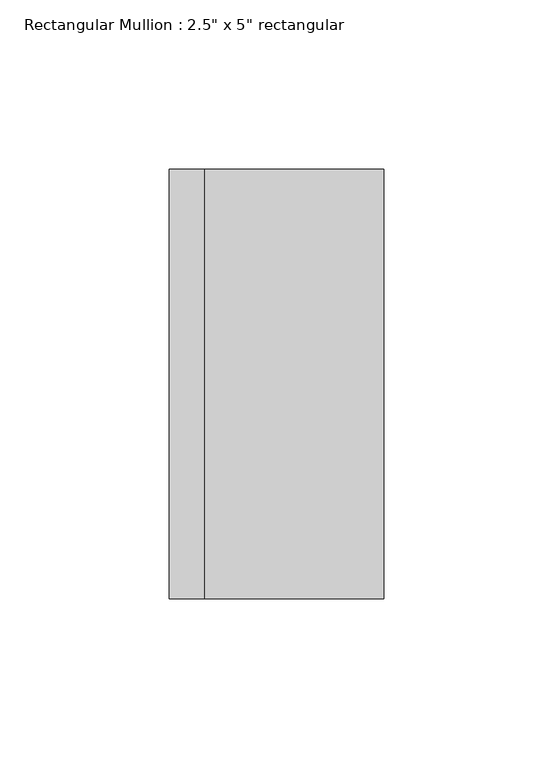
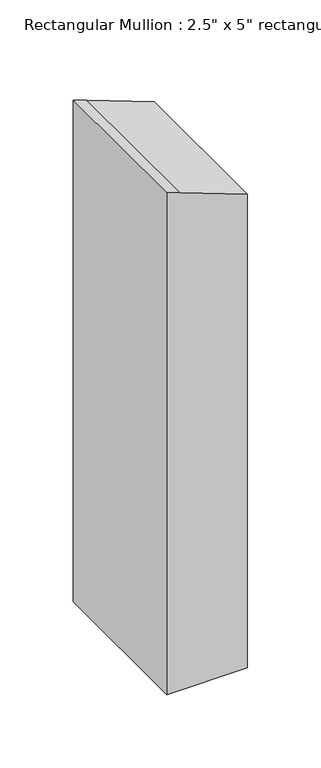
"""IFC4 building model written with IfcOpenShell, lengths in millimetres: member geometry."""

from ifc_helpers import new_model, si_unit, frame, origin, place, context, project, spatial, circle_curve, source, transform, mapped, element, save
from ifc_brep_helpers import plane_surface, cylinder_surface, advanced_brep


def member_55ed3d74(model_context):
    return source(origin(), model_context, "Body", "AdvancedBrep", [
        advanced_brep(
        [(31.75, 63.5, -473.2591752), (31.75, -63.5, -473.2591752), (-31.75, -63.5, -473.2591752), (-31.75, 63.5, -473.2591752), (-31.75, 63.5, -56.1643714), (-21.1659471, 63.5, -59.8686363), (31.75, 63.5, -79.5346581), (-31.75, -63.5, -56.1643714), (31.75, -63.5, -79.5346581), (-21.1659471, -63.5, -59.8686363)],
        [
            (0, 1),
            (1, 2),
            (2, 3),
            (3, 0),
            (4, 5, circle_curve(frame((-609.6, 63.5, -1724.2091752), z_axis=(0.0, 1.0, 0.0), x_axis=(0.0, 0.0, 1.0)), 1765.3)),
            (5, 6, circle_curve(frame((-609.6, 63.5, -1724.2091752), z_axis=(0.0, 1.0, 0.0), x_axis=(0.33333333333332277, 0.0, 0.9428090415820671)), 1765.3)),
            (6, 0),
            (3, 4),
            (7, 4),
            (2, 7),
            (8, 9, circle_curve(frame((-609.6, -63.5, -1724.2091752), z_axis=(0.0, -1.0, 0.0), x_axis=(0.33333333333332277, 0.0, 0.9428090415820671)), 1765.3)),
            (9, 7, circle_curve(frame((-609.6, -63.5, -1724.2091752), z_axis=(0.0, -1.0, 0.0), x_axis=(0.0, 0.0, 1.0)), 1765.3)),
            (1, 8),
            (6, 8),
            (5, 9),
        ],
        [
            plane_surface(frame((0.0, -70.9951583, -473.2591752), z_axis=(0.0, 0.0, -1.0), x_axis=(-1.0, 0.0, 0.0))),
            plane_surface(frame((31.75, 63.5, 0.0), z_axis=(0.0, 1.0, 0.0), x_axis=(0.0, 0.0, -1.0))),
            plane_surface(frame((-31.75, 63.5, 0.0), z_axis=(-1.0, 0.0, 0.0), x_axis=(0.0, 0.0, -1.0))),
            plane_surface(frame((-31.75, -63.5, 0.0), z_axis=(0.0, -1.0, 0.0), x_axis=(0.0, 0.0, -1.0))),
            plane_surface(frame((31.75, -63.5, 0.0), z_axis=(1.0, 0.0, 0.0), x_axis=(0.0, 0.0, -1.0))),
            cylinder_surface(frame((-609.6, 0.0, -1724.2091752), z_axis=(0.0, 1.0, 0.0), x_axis=(0.33333333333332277, 0.0, 0.9428090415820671)), 1765.3),
            cylinder_surface(frame((-609.6, 0.0, -1724.2091752), z_axis=(0.0, 1.0, 0.0), x_axis=(0.0, 0.0, 1.0)), 1765.3),
        ],
        [
            (0, [[1, 2, 3, 4]]),
            (1, [[5, 6, 7, -4, 8]]),
            (2, [[9, -8, -3, 10]]),
            (3, [[11, 12, -10, -2, 13]]),
            (4, [[14, -13, -1, -7]]),
            (5, [[-6, 15, -11, -14]]),
            (6, [[-5, -9, -12, -15]]),
        ],
    ),
    ])


if __name__ == "__main__":
    model = new_model("IFC4")
    model_context = context("Model", 3, world=origin())
    ifc_project = project(units=[si_unit("LENGTHUNIT", "METRE", prefix="MILLI")], contexts=[model_context])
    site = spatial("IfcSite", under=ifc_project)
    building = spatial("IfcBuilding", under=site)
    placement = place(None, origin())
    member_shape = member_55ed3d74(model_context)
    element("IfcMember", 1, ObjectType="Rectangular Mullion : 2.5\" x 5\" rectangular", at=placement, inside=building, context=model_context, shape_type="MappedRepresentation", body=[
        mapped(member_shape, transform((0.0, 0.0, 0.0), x_axis=(1.0, 0.0, 0.0), y_axis=(0.0, 1.0, 0.0), z_axis=(0.0, 0.0, 1.0))),
    ])
    save(model, "model.ifc")
